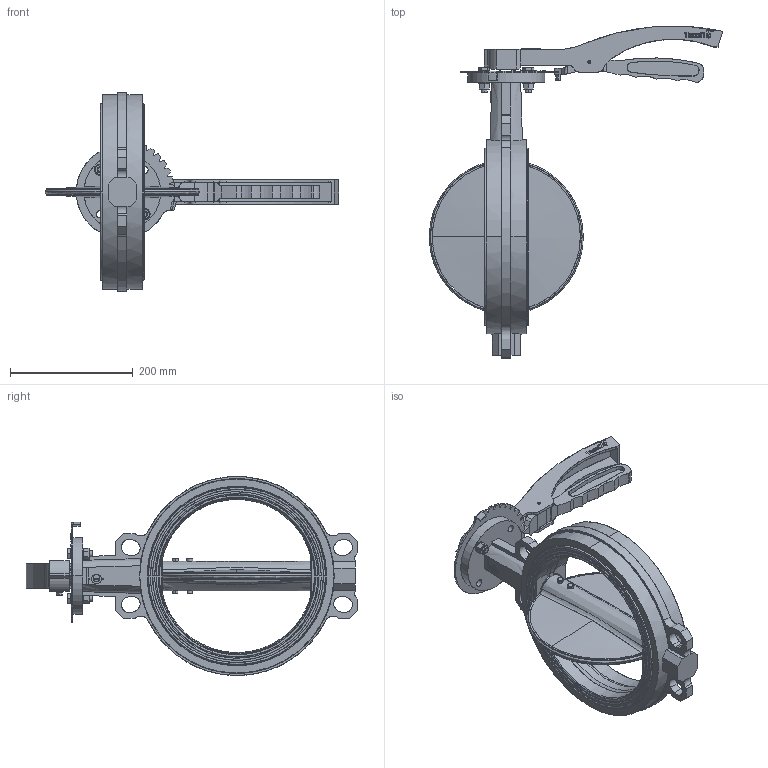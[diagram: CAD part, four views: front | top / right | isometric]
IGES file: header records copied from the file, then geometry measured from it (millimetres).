
Start section: SolidWorks IGES file using analytic representation for surfaces
Global section: file name: H:\BE BIBLIOTHEQUE 3D\BE SECTION 01 - ROBINETS A PAPILLON_VANNES PASSAGE DIRECTE\VP - Vanne Papillon\VPG\WAFER\DN250\VPG444X-02XX0250-Défaut.igs; native system: SolidWorks 2020; preprocessor: SolidWorks 2020; author: k.gigout; date: 220519.181942; units: millimetre
Bounding box: 477.45 x 540.2 x 323.89 mm (x, y, z)
Surface area: 613419.5 mm2 (no closed solid volume)
Topology: 0 solids, 0 shells, 575 faces, 19295 edges, 19295 vertices
Faces by surface type: bspline 324, revolution 251
